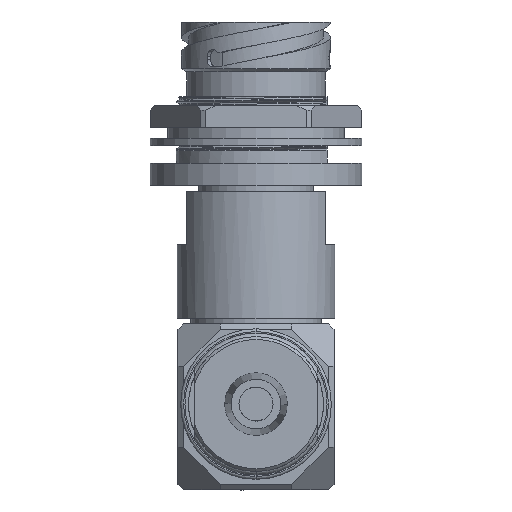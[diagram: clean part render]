
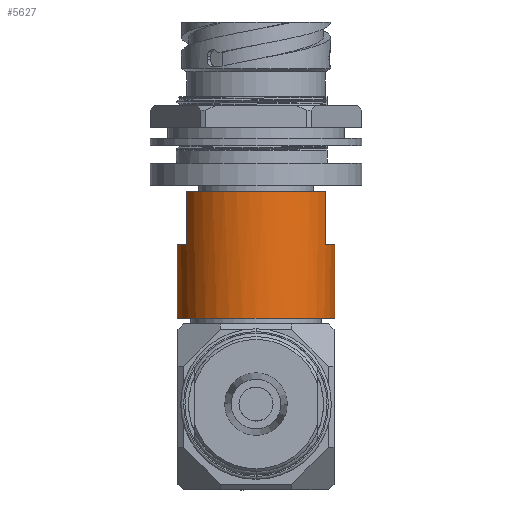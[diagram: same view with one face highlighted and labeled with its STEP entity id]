
A CAD part, front view. The second image highlights one B-rep face of the part: STEP entity #5627.
In plain terms, the highlighted cylindrical face has radius 14.097 mm (diameter 28.194 mm), a partial arc.
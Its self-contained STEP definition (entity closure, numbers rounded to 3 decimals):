
#361 = EDGE_LOOP ( 'NONE', ( #27501, #8920, #29618, #5957, #29319, #6039, #5731, #30313 ) ) ;
#961 = EDGE_CURVE ( 'NONE', #17393, #19433, #11239, .T. ) ;
#1297 = EDGE_CURVE ( 'NONE', #19433, #2626, #5242, .T. ) ;
#1684 = FACE_OUTER_BOUND ( 'NONE', #361, .T. ) ;
#2626 = VERTEX_POINT ( 'NONE', #5580 ) ;
#2652 = CARTESIAN_POINT ( 'NONE',  ( 12.446, -6.62, -39.853 ) ) ;
#3247 = DIRECTION ( 'NONE',  ( 0., 0., 1. ) ) ;
#3303 = AXIS2_PLACEMENT_3D ( 'NONE', #12594, #21949, #10294 ) ;
#3810 = DIRECTION ( 'NONE',  ( 1., 0., 0. ) ) ;
#4056 = DIRECTION ( 'NONE',  ( 0., 0., -1. ) ) ;
#4098 = CARTESIAN_POINT ( 'NONE',  ( -14.097, 0., -53.01 ) ) ;
#4197 = CARTESIAN_POINT ( 'NONE',  ( 12.446, -6.62, -30.328 ) ) ;
#4281 = VERTEX_POINT ( 'NONE', #4098 ) ;
#4492 = EDGE_CURVE ( 'NONE', #6810, #30243, #21566, .T. ) ;
#5094 = CARTESIAN_POINT ( 'NONE',  ( -14.097, 0., -39.853 ) ) ;
#5242 = CIRCLE ( 'NONE', #27379, 14.097 ) ;
#5580 = CARTESIAN_POINT ( 'NONE',  ( 14.097, 0., -39.853 ) ) ;
#5627 = ADVANCED_FACE ( 'NONE', ( #1684 ), #6425, .T. ) ;
#5731 = ORIENTED_EDGE ( 'NONE', *, *, #24494, .T. ) ;
#5957 = ORIENTED_EDGE ( 'NONE', *, *, #22436, .F. ) ;
#6039 = ORIENTED_EDGE ( 'NONE', *, *, #961, .F. ) ;
#6247 = VECTOR ( 'NONE', #4056, 1000. ) ;
#6354 = CARTESIAN_POINT ( 'NONE',  ( -14.097, 0., -30.328 ) ) ;
#6396 = CIRCLE ( 'NONE', #29892, 14.097 ) ;
#6425 = CYLINDRICAL_SURFACE ( 'NONE', #26391, 14.097 ) ;
#6810 = VERTEX_POINT ( 'NONE', #10386 ) ;
#8322 = DIRECTION ( 'NONE',  ( 0., 0., -1. ) ) ;
#8920 = ORIENTED_EDGE ( 'NONE', *, *, #23557, .T. ) ;
#9214 = AXIS2_PLACEMENT_3D ( 'NONE', #29338, #8322, #10927 ) ;
#9769 = CARTESIAN_POINT ( 'NONE',  ( 14.097, 0., -30.328 ) ) ;
#10005 = CARTESIAN_POINT ( 'NONE',  ( 0., 0., -39.853 ) ) ;
#10294 = DIRECTION ( 'NONE',  ( 1., 0., 0. ) ) ;
#10386 = CARTESIAN_POINT ( 'NONE',  ( -12.446, -6.62, -39.853 ) ) ;
#10927 = DIRECTION ( 'NONE',  ( 1., 0., 0. ) ) ;
#11098 = VERTEX_POINT ( 'NONE', #5094 ) ;
#11239 = LINE ( 'NONE', #4197, #16985 ) ;
#11388 = DIRECTION ( 'NONE',  ( 0., 0., -1. ) ) ;
#11616 = CIRCLE ( 'NONE', #3303, 14.097 ) ;
#12269 = VECTOR ( 'NONE', #12358, 1000. ) ;
#12358 = DIRECTION ( 'NONE',  ( 0., 0., 1. ) ) ;
#12594 = CARTESIAN_POINT ( 'NONE',  ( 0., 0., -53.01 ) ) ;
#14592 = DIRECTION ( 'NONE',  ( 1., 0., 0. ) ) ;
#15419 = DIRECTION ( 'NONE',  ( 0., 1., 0. ) ) ;
#15881 = CARTESIAN_POINT ( 'NONE',  ( -12.446, -6.62, -30.328 ) ) ;
#16985 = VECTOR ( 'NONE', #11388, 1000. ) ;
#17287 = CARTESIAN_POINT ( 'NONE',  ( 0., 0., -39.853 ) ) ;
#17393 = VERTEX_POINT ( 'NONE', #29331 ) ;
#17603 = DIRECTION ( 'NONE',  ( 0., 0., -1. ) ) ;
#18819 = EDGE_CURVE ( 'NONE', #11098, #6810, #6396, .T. ) ;
#19433 = VERTEX_POINT ( 'NONE', #2652 ) ;
#19653 = VERTEX_POINT ( 'NONE', #28963 ) ;
#21263 = CARTESIAN_POINT ( 'NONE',  ( -12.446, -6.62, -30.328 ) ) ;
#21566 = LINE ( 'NONE', #21263, #12269 ) ;
#21720 = DIRECTION ( 'NONE',  ( 0., 0., -1. ) ) ;
#21949 = DIRECTION ( 'NONE',  ( 0., 0., -1. ) ) ;
#22436 = EDGE_CURVE ( 'NONE', #2626, #19653, #23863, .T. ) ;
#22827 = CARTESIAN_POINT ( 'NONE',  ( 0., 0., -30.328 ) ) ;
#23557 = EDGE_CURVE ( 'NONE', #11098, #4281, #26904, .T. ) ;
#23863 = LINE ( 'NONE', #9769, #29385 ) ;
#24321 = CIRCLE ( 'NONE', #9214, 14.097 ) ;
#24494 = EDGE_CURVE ( 'NONE', #17393, #30243, #24321, .T. ) ;
#26391 = AXIS2_PLACEMENT_3D ( 'NONE', #22827, #17603, #3810 ) ;
#26904 = LINE ( 'NONE', #6354, #6247 ) ;
#27370 = EDGE_CURVE ( 'NONE', #19653, #4281, #11616, .T. ) ;
#27379 = AXIS2_PLACEMENT_3D ( 'NONE', #10005, #3247, #14592 ) ;
#27501 = ORIENTED_EDGE ( 'NONE', *, *, #18819, .F. ) ;
#28963 = CARTESIAN_POINT ( 'NONE',  ( 14.097, 0., -53.01 ) ) ;
#29319 = ORIENTED_EDGE ( 'NONE', *, *, #1297, .F. ) ;
#29331 = CARTESIAN_POINT ( 'NONE',  ( 12.446, -6.62, -30.328 ) ) ;
#29338 = CARTESIAN_POINT ( 'NONE',  ( 0., 0., -30.328 ) ) ;
#29385 = VECTOR ( 'NONE', #21720, 1000. ) ;
#29565 = DIRECTION ( 'NONE',  ( 0., 0., 1. ) ) ;
#29618 = ORIENTED_EDGE ( 'NONE', *, *, #27370, .F. ) ;
#29892 = AXIS2_PLACEMENT_3D ( 'NONE', #17287, #29565, #15419 ) ;
#30243 = VERTEX_POINT ( 'NONE', #15881 ) ;
#30313 = ORIENTED_EDGE ( 'NONE', *, *, #4492, .F. ) ;
